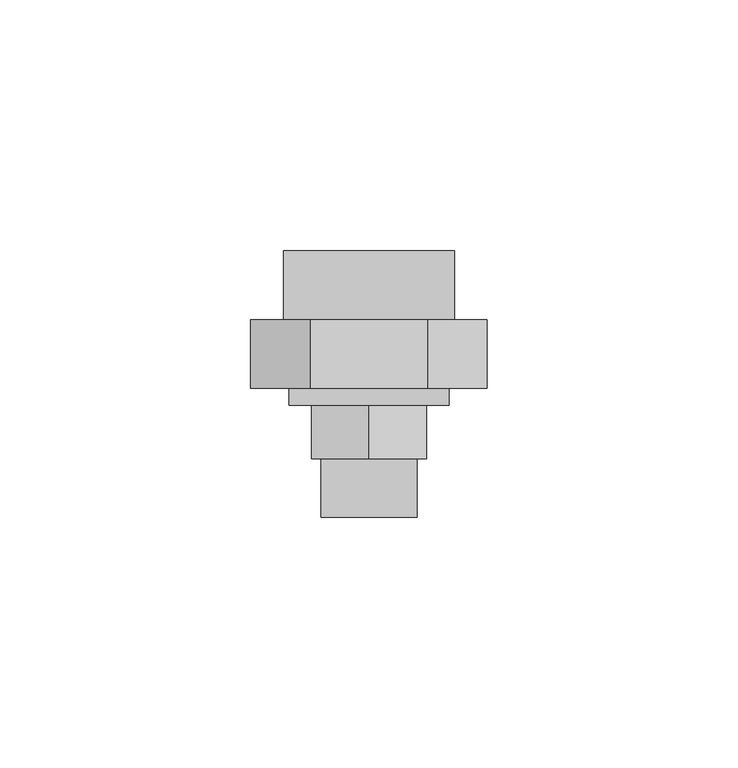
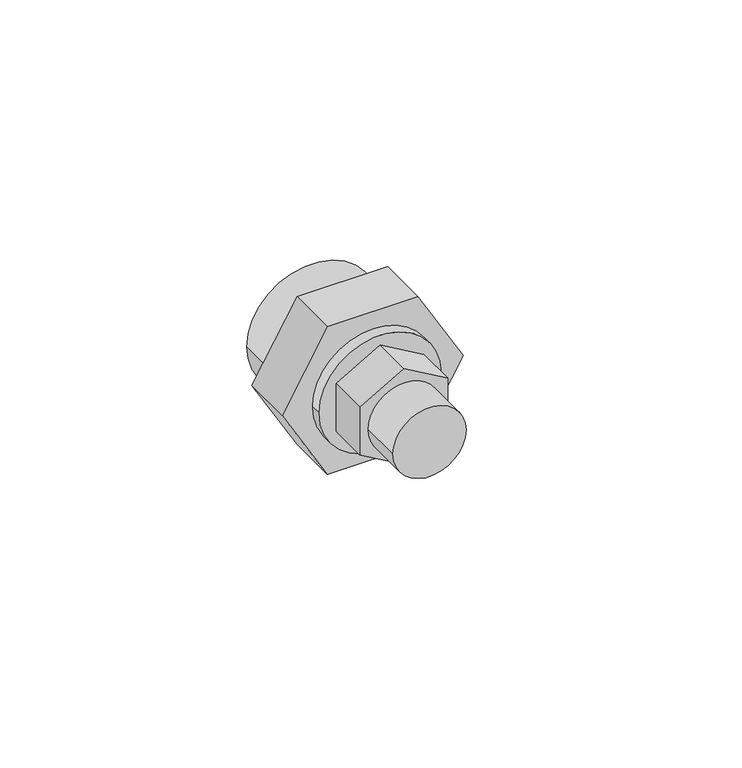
"""IFC4 building model written with IfcOpenShell, lengths in millimetres: pipe fitting geometry, EGB_VASEN_ PPR_Enlace desmontable rosca macho WXR103 : Enlace desmontable rosca macho WXR103."""

import ifcopenshell
import ifcopenshell.guid

model = None  # the IFC model being written
_history = None  # IfcOwnerHistory: only IFC2X3 demands one
_inside = {}  # id of a spatial element -> (the spatial element, [elements in it])
_under = {}  # id of a project, library or spatial element -> (it, [spatial elements below it])
_declared = {}  # id of a project -> (the project, [libraries it declares])
_typed = {}  # id of a type object -> (the type object, [elements of that type])
_made_of = {}  # id of a material, layer set ... -> (it, [elements and type objects made of it])


def new_model(schema):
    """Start an empty IFC model of exactly this schema.

    Asked for "IFC4X3", IfcOpenShell would pick the latest addendum, in which some entities
    have other attributes; the version numbers below select the first issue.
    IFC2X3 requires an IfcOwnerHistory on every rooted entity: one is made here for all.
    """
    global model, _history
    if schema == "IFC4X3":
        model = ifcopenshell.file(schema_version=(4, 3, 0, 0))
    else:
        model = ifcopenshell.file(schema=schema)
    _inside.clear()
    _under.clear()
    _declared.clear()
    _typed.clear()
    _made_of.clear()
    _history = None
    if model.schema == "IFC2X3":
        org = make("IfcOrganization", Name="unknown")
        user = make(
            "IfcPersonAndOrganization",
            ThePerson=make("IfcPerson", FamilyName="unknown"),
            TheOrganization=org,
        )
        app = make(
            "IfcApplication",
            ApplicationDeveloper=org,
            Version="unknown",
            ApplicationFullName="unknown",
            ApplicationIdentifier="unknown",
        )
        _history = make(
            "IfcOwnerHistory",
            OwningUser=user,
            OwningApplication=app,
            ChangeAction="ADDED",
            CreationDate=0,
        )
    return model


def make(cls, **values):
    """One entity of the class cls with the attributes given. An attribute that is None is left unset."""
    return model.create_entity(
        cls, **{name: value for name, value in values.items() if value is not None}
    )


def rooted(cls, **values):
    """An entity with a GlobalId (a new one), such as an element, a storey or a relation."""
    return make(cls, GlobalId=ifcopenshell.guid.new(), OwnerHistory=_history, **values)


def si_unit(unit_type, name, prefix=None):
    """IfcSIUnit, for example si_unit("LENGTHUNIT", "METRE", prefix="MILLI")."""
    return make("IfcSIUnit", UnitType=unit_type, Prefix=prefix, Name=name)


def assignment(units):
    """IfcUnitAssignment: the units of a project."""
    return None if units is None else make("IfcUnitAssignment", Units=units)


def point(xyz):
    """IfcCartesianPoint."""
    return None if xyz is None else make("IfcCartesianPoint", Coordinates=xyz)


def direction(xyz):
    """IfcDirection."""
    return None if xyz is None else make("IfcDirection", DirectionRatios=xyz)


def frame(location, z_axis=None, x_axis=None):
    """IfcAxis2Placement3D, a coordinate frame: its origin and axes. An axis left out is left unset."""
    return make(
        "IfcAxis2Placement3D",
        Location=point(location),
        Axis=direction(z_axis),
        RefDirection=direction(x_axis),
    )


def frame_2d(location, x_axis=None):
    """IfcAxis2Placement2D, a coordinate frame in the plane: its origin and x axis."""
    return make(
        "IfcAxis2Placement2D", Location=point(location), RefDirection=direction(x_axis)
    )


def origin():
    """The frame at (0, 0, 0) with its axes left unset."""
    return frame((0.0, 0.0, 0.0))


def origin_2d():
    """The frame at (0, 0) in the plane with its x axis left unset."""
    return frame_2d((0.0, 0.0))


def place(relative_to, where):
    """IfcLocalPlacement: puts the frame where relative to a parent placement (None: the world)."""
    return make(
        "IfcLocalPlacement", PlacementRelTo=relative_to, RelativePlacement=where
    )


def context(
    kind, dimensions, precision=None, world=None, true_north=None, identifier=None
):
    """IfcGeometricRepresentationContext, for example the 3D "Model" context."""
    return make(
        "IfcGeometricRepresentationContext",
        ContextIdentifier=identifier,
        ContextType=kind,
        CoordinateSpaceDimension=dimensions,
        Precision=precision,
        WorldCoordinateSystem=world,
        TrueNorth=true_north,
    )


def project(units=None, contexts=None):
    """IfcProject with its units and contexts."""
    return rooted(
        "IfcProject",
        Name="project",
        RepresentationContexts=contexts,
        UnitsInContext=assignment(units),
    )


def spatial(cls, under=None, at=None, **own):
    """A site, building, storey or space (cls), placed at a placement, below another one or the project."""
    s = rooted(cls, ObjectPlacement=at, **own)
    if under is not None:
        _under.setdefault(under.id(), (under, []))[1].append(s)
    return s


def polyline(points):
    """IfcPolyline through the points."""
    return make("IfcPolyline", Points=[point(p) for p in points])


def circle_curve(where, radius):
    """IfcCircle in the frame where."""
    return make("IfcCircle", Position=where, Radius=radius)


def trimmed(basis, trim1, trim2, sense, master):
    """IfcTrimmedCurve: the piece of a basis curve between two trims."""
    return make(
        "IfcTrimmedCurve",
        BasisCurve=basis,
        Trim1=trim1,
        Trim2=trim2,
        SenseAgreement=sense,
        MasterRepresentation=master,
    )


def segment(curve, same_sense, transition):
    """IfcCompositeCurveSegment."""
    return make(
        "IfcCompositeCurveSegment",
        Transition=transition,
        SameSense=same_sense,
        ParentCurve=curve,
    )


def composite_curve(segments, self_intersect=None):
    """IfcCompositeCurve: segments joined end to end."""
    return make("IfcCompositeCurve", Segments=segments, SelfIntersect=self_intersect)


def outline(outer, holes=None, kind="AREA"):
    """IfcArbitraryClosedProfileDef: a profile drawn as a closed curve; with holes, ...WithVoids."""
    if holes is None:
        return make("IfcArbitraryClosedProfileDef", ProfileType=kind, OuterCurve=outer)
    return make(
        "IfcArbitraryProfileDefWithVoids",
        ProfileType=kind,
        OuterCurve=outer,
        InnerCurves=holes,
    )


def extrude(swept, where, along, depth):
    """IfcExtrudedAreaSolid: the profile swept, set in the frame where, extruded along a direction by depth."""
    return make(
        "IfcExtrudedAreaSolid",
        SweptArea=swept,
        Position=where,
        ExtrudedDirection=direction(along),
        Depth=depth,
    )


def shape(context_of_items, identifier, shape_type, items):
    """IfcShapeRepresentation: the items that make up one representation, for example the "Body"."""
    return make(
        "IfcShapeRepresentation",
        ContextOfItems=context_of_items,
        RepresentationIdentifier=identifier,
        RepresentationType=shape_type,
        Items=items,
    )


def source(mapping_origin, context_of_items, identifier, shape_type, items):
    """IfcRepresentationMap: a shape defined once, which mapped items show again and again."""
    return make(
        "IfcRepresentationMap",
        MappingOrigin=mapping_origin,
        MappedRepresentation=shape(context_of_items, identifier, shape_type, items),
    )


def transform(
    local_origin,
    x_axis=None,
    y_axis=None,
    z_axis=None,
    scale=None,
    scale2=None,
    scale3=None,
    uniform=True,
):
    """IfcCartesianTransformationOperator3D, or its non-uniform kind. x_axis, y_axis, z_axis: its Axis1, 2, 3."""
    if uniform:
        return make(
            "IfcCartesianTransformationOperator3D",
            Axis1=direction(x_axis),
            Axis2=direction(y_axis),
            LocalOrigin=point(local_origin),
            Scale=scale,
            Axis3=direction(z_axis),
        )
    return make(
        "IfcCartesianTransformationOperator3DnonUniform",
        Axis1=direction(x_axis),
        Axis2=direction(y_axis),
        LocalOrigin=point(local_origin),
        Scale=scale,
        Axis3=direction(z_axis),
        Scale2=scale2,
        Scale3=scale3,
    )


def mapped(mapping_source, mapping_target):
    """IfcMappedItem: shows the shape of a source again, moved by a transform."""
    return make(
        "IfcMappedItem", MappingSource=mapping_source, MappingTarget=mapping_target
    )


def made_of(thing, what):
    """Note that an element or type object is made of a material, layer set ...; save() writes the relation."""
    if what is not None:
        _made_of.setdefault(what.id(), (what, []))[1].append(thing)
    return thing


def element(
    cls,
    number,
    at=None,
    inside=None,
    cuts=None,
    type_object=None,
    material=None,
    context=None,
    identifier="Body",
    shape_type=None,
    held_by="IfcProductDefinitionShape",
    body=None,
    shapes=None,
    **own,
):
    """One element of the class cls, such as IfcWall. Its Tag is "e" and its number.

    at: its placement. inside: the storey or other place that contains it. cuts: it is an
    opening in that element (IfcRelVoidsElement). A single representation is given by context,
    identifier, shape_type and body (its items); several are given by shapes. held_by: the class
    of the entity that holds the representations. save() writes the other relations.
    """
    e = rooted(cls, Tag="e%d" % number, ObjectPlacement=at, **own)
    if body is not None:
        shapes = [shape(context, identifier, shape_type, body)]
    if shapes is not None:
        e.Representation = make(held_by, Representations=shapes)
    if inside is not None:
        _inside.setdefault(inside.id(), (inside, []))[1].append(e)
    if cuts is not None:
        rooted(
            "IfcRelVoidsElement", RelatingBuildingElement=cuts, RelatedOpeningElement=e
        )
    if type_object is not None:
        _typed.setdefault(type_object.id(), (type_object, []))[1].append(e)
    return made_of(e, material)


def aggregate(whole, parts):
    """IfcRelAggregates: a whole, such as a stair, and the parts it consists of."""
    return rooted("IfcRelAggregates", RelatingObject=whole, RelatedObjects=parts)


def save(model, path):
    """Write the relations noted so far, then the file.

    IfcRelAggregates (storeys below a building ...), IfcRelContainedInSpatialStructure (elements
    in a storey), IfcRelDefinesByType, IfcRelAssociatesMaterial and IfcRelDeclares: one each for
    every whole, place, type object, material and project.
    """
    for whole, parts in _under.values():
        aggregate(whole, parts)
    for where, things in _inside.values():
        rooted(
            "IfcRelContainedInSpatialStructure",
            RelatedElements=things,
            RelatingStructure=where,
        )
    for kind, things in _typed.values():
        rooted("IfcRelDefinesByType", RelatedObjects=things, RelatingType=kind)
    for what, things in _made_of.values():
        rooted("IfcRelAssociatesMaterial", RelatedObjects=things, RelatingMaterial=what)
    for by, libraries in _declared.values():
        rooted("IfcRelDeclares", RelatingContext=by, RelatedDefinitions=libraries)
    model.write(path)


def pipe_fitting_51203bd5(model_context):
    return source(origin(), model_context, "Body", "SweptSolid", [
        extrude(outline(polyline([(-6.5991136, -11.43), (-13.1982272, 0.0), (-6.5991136, 11.43), (6.5991136, 11.43), (13.1982272, 0.0), (6.5991136, -11.43), (-6.5991136, -11.43)])), frame((0.0, -27.0879167, 0.0), z_axis=(0.0, 1.0, 0.0), x_axis=(0.0, 0.0, 1.0)), (0.0, 0.0, 1.0), 10.6666667),
        extrude(outline(polyline([(0.0, 23.555891), (20.4, 11.7779455), (20.4, -11.7779455), (0.0, -23.555891), (-20.4, -11.7779455), (-20.4, 11.7779455), (0.0, 23.555891)])), frame((0.0, -13.05375, 0.0), z_axis=(0.0, 1.0, 0.0), x_axis=(0.0, 0.0, 1.0)), (0.0, 0.0, 1.0), 13.6666667),
        extrude(outline(composite_curve([segment(trimmed(circle_curve(origin_2d(), 9.525), [point((0.0, -9.525))], [point((0.0, 9.525))], False, "CARTESIAN"), True, "CONTINUOUS"), segment(trimmed(circle_curve(origin_2d(), 9.525), [point((0.0, 9.525))], [point((0.0, -9.525))], False, "CARTESIAN"), True, "CONTINUOUS")], self_intersect=False)), frame((0.0, -38.7204167, 0.0), z_axis=(0.0, 1.0, 0.0), x_axis=(0.0, 0.0, 1.0)), (0.0, 0.0, 1.0), 12.0),
        extrude(outline(composite_curve([segment(trimmed(circle_curve(origin_2d(), 15.915), [point((0.0, -15.915))], [point((0.0, 15.915))], False, "CARTESIAN"), True, "CONTINUOUS"), segment(trimmed(circle_curve(origin_2d(), 15.915), [point((0.0, 15.915))], [point((0.0, -15.915))], False, "CARTESIAN"), True, "CONTINUOUS")], self_intersect=False)), frame((0.0, -16.42125, 0.0), z_axis=(0.0, 1.0, 0.0), x_axis=(0.0, 0.0, 1.0)), (0.0, 0.0, 1.0), 3.3675),
        extrude(outline(composite_curve([segment(trimmed(circle_curve(origin_2d(), 17.0), [point((0.0, -17.0))], [point((0.0, 17.0))], False, "CARTESIAN"), True, "CONTINUOUS"), segment(trimmed(circle_curve(origin_2d(), 17.0), [point((0.0, 17.0))], [point((0.0, -17.0))], False, "CARTESIAN"), True, "CONTINUOUS")], self_intersect=False), holes=[composite_curve([segment(trimmed(circle_curve(origin_2d(), 12.5), [point((0.0, -12.5))], [point((0.0, 12.5))], True, "CARTESIAN"), True, "CONTINUOUS"), segment(trimmed(circle_curve(origin_2d(), 12.5), [point((0.0, 12.5))], [point((0.0, -12.5))], True, "CARTESIAN"), True, "CONTINUOUS")], self_intersect=False)]), frame((0.0, 0.6129167, 0.0), z_axis=(0.0, 1.0, 0.0), x_axis=(0.0, 0.0, 1.0)), (0.0, 0.0, 1.0), 13.6666667),
    ])


if __name__ == "__main__":
    model = new_model("IFC4")
    model_context = context("Model", 3, world=origin())
    ifc_project = project(units=[si_unit("LENGTHUNIT", "METRE", prefix="MILLI")], contexts=[model_context])
    site = spatial("IfcSite", under=ifc_project)
    building = spatial("IfcBuilding", under=site)
    placement = place(None, origin())
    pipe_fitting_shape = pipe_fitting_51203bd5(model_context)
    element("IfcPipeFitting", 1, ObjectType="EGB_VASEN_ PPR_Enlace desmontable rosca macho WXR103 : Enlace desmontable rosca macho WXR103", at=placement, inside=building, context=model_context, shape_type="MappedRepresentation", body=[
        mapped(pipe_fitting_shape, transform((0.0, 0.0, 0.0), x_axis=(1.0, 0.0, 0.0), y_axis=(0.0, 1.0, 0.0), z_axis=(0.0, 0.0, 1.0))),
    ])
    save(model, "model.ifc")
